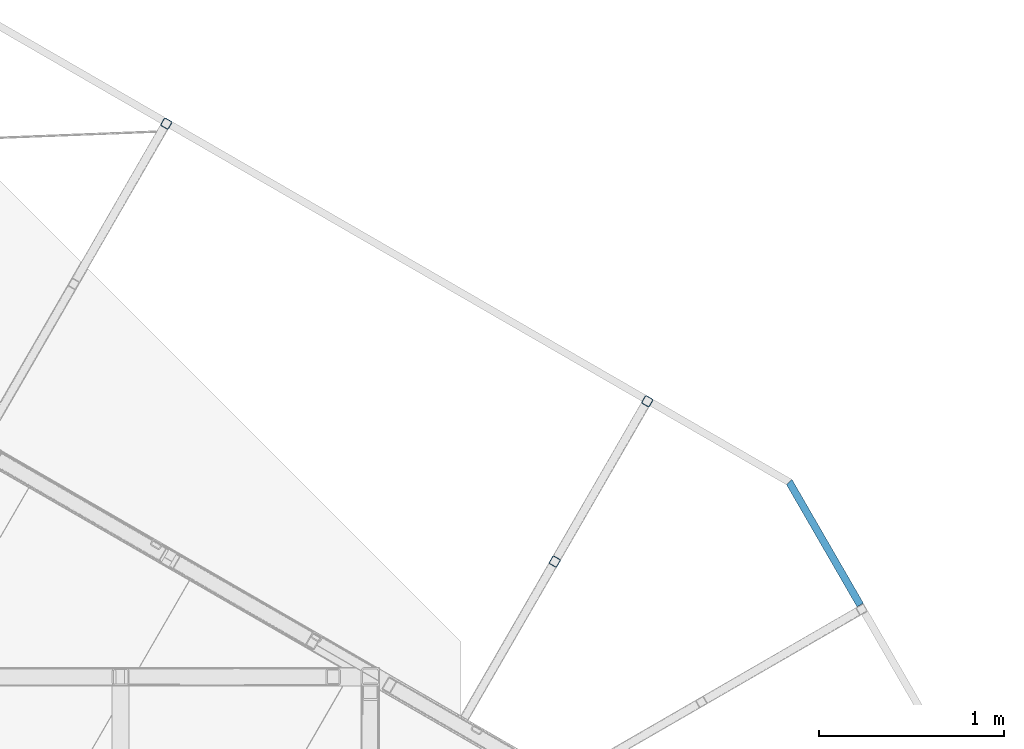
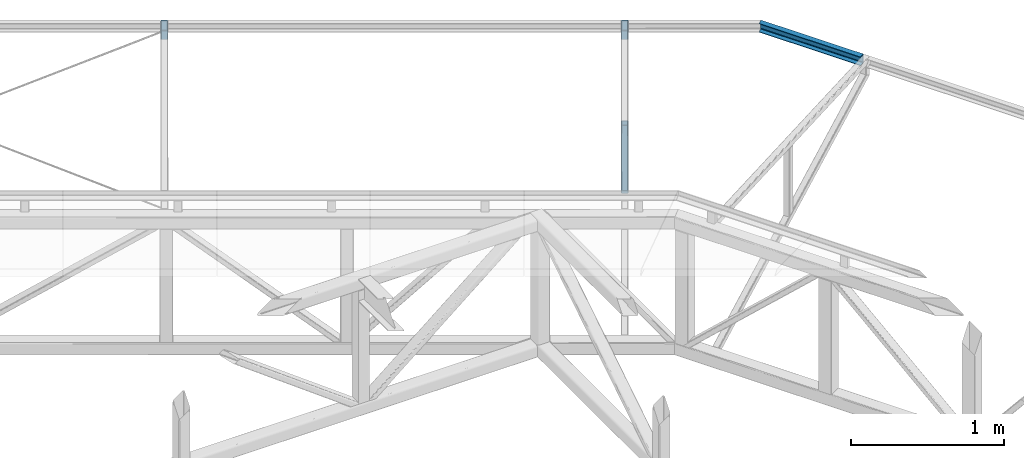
# One storey, part 96 of 132: 4 discrete accessories, 3 elements without a shape of their own.
"""IFC2X3 building model written with IfcOpenShell, lengths in millimetres."""

from ifc_helpers import new_model, si_unit, frame, origin_with_axes, origin_2d_with_axis, place, context, subcontext, project, spatial, hollow_rectangle, u_section, extrude, clip, halfspace, material, type_object, element, aggregate, save


model = new_model("IFC2X3")

# Units and contexts
model_context = context("Model", 3, precision=1e-05, world=origin_with_axes())
body_context = subcontext(model_context, "Body", "Model", "MODEL_VIEW")
ifc_project = project(units=[si_unit("LENGTHUNIT", "METRE", prefix="MILLI"), si_unit("AREAUNIT", "SQUARE_METRE"), si_unit("VOLUMEUNIT", "CUBIC_METRE"), si_unit("MASSUNIT", "GRAM", prefix="KILO"), si_unit("TIMEUNIT", "SECOND"), si_unit("PLANEANGLEUNIT", "RADIAN"), si_unit("SOLIDANGLEUNIT", "STERADIAN"), si_unit("THERMODYNAMICTEMPERATUREUNIT", "DEGREE_CELSIUS"), si_unit("LUMINOUSINTENSITYUNIT", "LUMEN")], contexts=[model_context])

# Site, building, storey
site_placement = place(None, origin_with_axes())
site = spatial("IfcSite", under=ifc_project, at=site_placement, Name="Budowa", CompositionType="ELEMENT")
building_placement = place(site_placement, origin_with_axes())
building = spatial("IfcBuilding", under=site, at=building_placement, Name="Undefined", CompositionType="ELEMENT")
storey_placement = place(building_placement, origin_with_axes())
storey = spatial("IfcBuildingStorey", under=building, at=storey_placement, Name="Undefined", CompositionType="ELEMENT", Elevation=0.0)

# Assembly, discrete accessory
assembly_1_placement = place(storey_placement, origin_with_axes())
assembly_1 = element("IfcElementAssembly", 1, at=assembly_1_placement, inside=storey, Name="Steel Assembly", AssemblyPlace="NOTDEFINED", PredefinedType="RIGID_FRAME")
ifc_material = material(Name="STEEL/S235")
discrete_accessory_type = type_object("IfcDiscreteAccessoryType", Name="BEAM")
discrete_accessory_1_placement = place(assembly_1_placement, frame((22870.4697048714, 21698.5017773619, 13945.005019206), z_axis=(0.0, 0.0, -1.0), x_axis=(-0.499986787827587, 0.866033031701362, 0.0)))
discrete_accessory_1 = element("IfcDiscreteAccessory", 2, at=discrete_accessory_1_placement, type_object=discrete_accessory_type, material=ifc_material, Name="BEAM", ObjectType="C70*40*4", context=body_context, shape_type="Clipping", body=[
    clip(extrude(u_section(Depth=70.0, FlangeWidth=40.0, WebThickness=4.0, FlangeThickness=4.0, FilletRadius=6.0, at=origin_2d_with_axis()), frame((804.142854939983, 3.63797880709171e-12, -1.81898940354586e-12), z_axis=(-1.0, 0.0, 0.0), x_axis=(0.0, -1.0, 0.0)), (0.0, 0.0, 1.0), 804.14), halfspace(frame((771.808853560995, 20.0000000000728, -1.81898940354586e-12), z_axis=(0.965919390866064, -0.258843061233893, 0.0), x_axis=(0.0, 0.0, -1.0)), False)),
])
aggregate(assembly_1, [discrete_accessory_1])

# Assembly, discrete accessories
assembly_2_placement = place(storey_placement, origin_with_axes())
assembly_2 = element("IfcElementAssembly", 3, at=assembly_2_placement, inside=storey, Name="Steel Assembly", AssemblyPlace="NOTDEFINED", PredefinedType="RIGID_FRAME")
discrete_accessory_2_placement = place(assembly_2_placement, frame((21220.4479907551, 21933.1539823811, 13878.94002838), z_axis=(0.866042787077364, -0.499969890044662, 0.0), x_axis=(0.0, 0.0, -1.0)))
discrete_accessory_2 = element("IfcDiscreteAccessory", 4, at=discrete_accessory_2_placement, type_object=discrete_accessory_type, material=ifc_material, Name="BEAM", ObjectType="SHS50*4", context=body_context, shape_type="Clipping", body=[
    clip(clip(extrude(hollow_rectangle(XDim=50.0, YDim=50.0, WallThickness=4.0, InnerFilletRadius=4.0, OuterFilletRadius=8.0, at=origin_2d_with_axis()), frame((545.085010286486, 0.0, 0.0), z_axis=(-1.0, 0.0, 0.0), x_axis=(0.0, -1.0, 0.0)), (0.0, 0.0, 1.0), 559.36), halfspace(frame((536.667324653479, -11.620388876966, 1000.0), z_axis=(-0.885407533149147, -0.464815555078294, 0.0), x_axis=(0.464815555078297, -0.885407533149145, 0.0)), True)), halfspace(frame((0.185048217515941, 1.24844042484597, 1000.0), z_axis=(0.998752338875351, 0.0499376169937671, 0.0), x_axis=(-0.0499376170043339, 0.998752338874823, 2.09020387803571e-11)), True)),
])
discrete_accessory_3_placement = place(assembly_2_placement, frame((21720.4178808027, 22799.1967694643, 13979.9998397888), z_axis=(0.866042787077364, -0.499969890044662, 0.0), x_axis=(0.0, 0.0, -1.0)))
discrete_accessory_3 = element("IfcDiscreteAccessory", 5, at=discrete_accessory_3_placement, type_object=discrete_accessory_type, material=ifc_material, Name="BEAM", ObjectType="SHS50*4", context=body_context, shape_type="Clipping", body=[
    clip(clip(extrude(hollow_rectangle(XDim=50.0, YDim=50.0, WallThickness=4.0, InnerFilletRadius=4.0, OuterFilletRadius=8.0, at=origin_2d_with_axis()), frame((176.695154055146, 0.0, 0.0), z_axis=(-1.0, 0.0, 0.0), x_axis=(0.0, -1.0, 0.0)), (0.0, 0.0, 1.0), 192.23), halfspace(frame((149.999998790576, 25.0, 0.0), z_axis=(0.855808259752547, -0.517293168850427, 0.0), x_axis=(0.0, 0.0, -1.0)), False)), halfspace(frame((-0.00517939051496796, 25.0, 0.0), z_axis=(-0.689225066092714, -0.724547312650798, 2.88487317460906e-10), x_axis=(0.0, 0.0, 1.0)), False)),
])
aggregate(assembly_2, [discrete_accessory_2, discrete_accessory_3])

# Assembly, discrete accessory
assembly_3_placement = place(storey_placement, origin_with_axes())
assembly_3 = element("IfcElementAssembly", 6, at=assembly_3_placement, inside=storey, Name="Steel Assembly", AssemblyPlace="NOTDEFINED", PredefinedType="RIGID_FRAME")
discrete_accessory_4_placement = place(assembly_3_placement, frame((19122.2895195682, 24299.1064395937, 13979.9998397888), z_axis=(0.866042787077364, -0.499969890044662, 0.0), x_axis=(0.0, 0.0, -1.0)))
discrete_accessory_4 = element("IfcDiscreteAccessory", 7, at=discrete_accessory_4_placement, type_object=discrete_accessory_type, material=ifc_material, Name="BEAM", ObjectType="SHS50*4", context=body_context, shape_type="Clipping", body=[
    clip(clip(extrude(hollow_rectangle(XDim=50.0, YDim=50.0, WallThickness=4.0, InnerFilletRadius=4.0, OuterFilletRadius=8.0, at=origin_2d_with_axis()), frame((176.695154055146, 0.0, 0.0), z_axis=(-1.0, 0.0, 0.0), x_axis=(0.0, -1.0, 0.0)), (0.0, 0.0, 1.0), 192.23), halfspace(frame((149.999998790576, 25.0, 0.0), z_axis=(0.855808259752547, -0.517293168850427, 0.0), x_axis=(0.0, 0.0, -1.0)), False)), halfspace(frame((-0.00517939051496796, 25.0, 0.0), z_axis=(-0.689225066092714, -0.724547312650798, 2.88487317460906e-10), x_axis=(0.0, 0.0, 1.0)), False)),
])
aggregate(assembly_3, [discrete_accessory_4])

save(model, "model.ifc")
